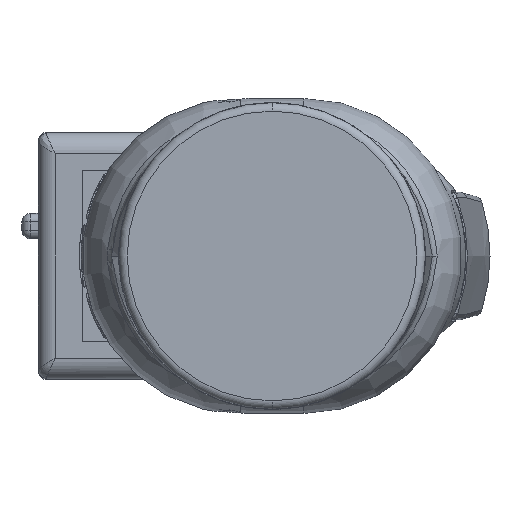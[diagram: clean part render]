
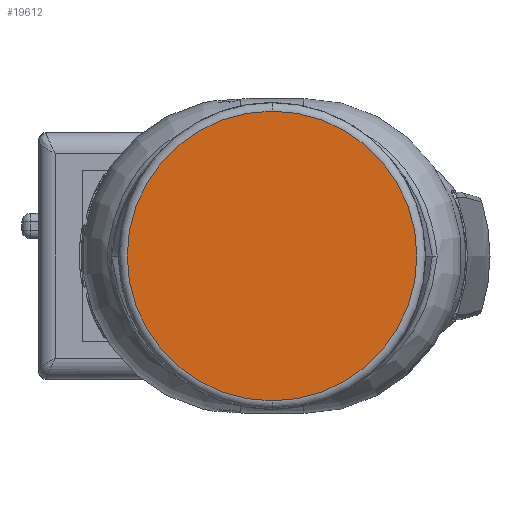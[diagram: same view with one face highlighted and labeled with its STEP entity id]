
A CAD part, left-side view. The second image highlights one B-rep face of the part: STEP entity #19612.
In plain terms, the highlighted planar face has unit normal (-1, 0, 0).
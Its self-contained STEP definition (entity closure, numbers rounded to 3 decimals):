
#267 = CARTESIAN_POINT ( 'NONE',  ( -203., -3.75, 0. ) ) ;
#546 = PLANE ( 'NONE',  #38921 ) ;
#4533 = DIRECTION ( 'NONE',  ( -1., 0., 0. ) ) ;
#7628 = CARTESIAN_POINT ( 'NONE',  ( -203., -3.75, -17. ) ) ;
#8582 = ORIENTED_EDGE ( 'NONE', *, *, #45421, .T. ) ;
#8670 = DIRECTION ( 'NONE',  ( 0., 0., -1. ) ) ;
#10908 = VERTEX_POINT ( 'NONE', #44669 ) ;
#11180 = DIRECTION ( 'NONE',  ( 0., 0., -1. ) ) ;
#15443 = EDGE_CURVE ( 'NONE', #10908, #21731, #37898, .T. ) ;
#15665 = DIRECTION ( 'NONE',  ( -1., 0., 0. ) ) ;
#19612 = ADVANCED_FACE ( 'NONE', ( #47051 ), #546, .F. ) ;
#21731 = VERTEX_POINT ( 'NONE', #7628 ) ;
#32463 = CARTESIAN_POINT ( 'NONE',  ( -203., -3.75, 0. ) ) ;
#33878 = DIRECTION ( 'NONE',  ( 1., 0., 0. ) ) ;
#36321 = CIRCLE ( 'NONE', #48839, 17. ) ;
#37898 = CIRCLE ( 'NONE', #38808, 17. ) ;
#38703 = DIRECTION ( 'NONE',  ( 0., 0., -1. ) ) ;
#38808 = AXIS2_PLACEMENT_3D ( 'NONE', #32463, #15665, #11180 ) ;
#38921 = AXIS2_PLACEMENT_3D ( 'NONE', #267, #33878, #8670 ) ;
#43713 = CARTESIAN_POINT ( 'NONE',  ( -203., -3.75, 0. ) ) ;
#44669 = CARTESIAN_POINT ( 'NONE',  ( -203., -3.75, 17. ) ) ;
#45421 = EDGE_CURVE ( 'NONE', #21731, #10908, #36321, .T. ) ;
#47051 = FACE_OUTER_BOUND ( 'NONE', #48243, .T. ) ;
#48243 = EDGE_LOOP ( 'NONE', ( #8582, #53294 ) ) ;
#48839 = AXIS2_PLACEMENT_3D ( 'NONE', #43713, #4533, #38703 ) ;
#53294 = ORIENTED_EDGE ( 'NONE', *, *, #15443, .T. ) ;
